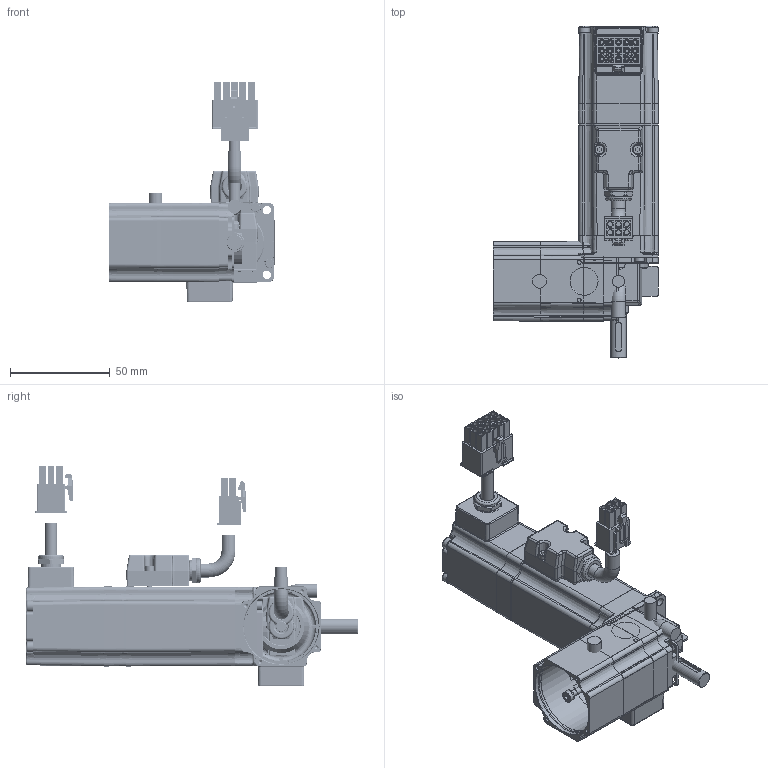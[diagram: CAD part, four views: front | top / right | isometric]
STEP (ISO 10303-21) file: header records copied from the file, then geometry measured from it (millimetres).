
FILE_DESCRIPTION( ( 'Unknown' ), '1' );
FILE_NAME( 'K:/121010-AL Files 3D Step con chiavetta/Q0A928_0,32.stp', 'Unknown', ( 'Unknown' ), ( 'Unknown' ), 'PSStep 14.0', 'Unknown', ' ' );
FILE_SCHEMA( ( 'AUTOMOTIVE_DESIGN { 1 0 10303 214 1 1 1 1 }' ) );
Length unit declared in the file: millimetre
Products named in the file (38): blocchetto potenza ORIZ TC40-(N13050); Assem1; Vite a brugola testa cil 8,8 -  M 2,5 x 4; N45901; N35907; Vite a brugola testa cil 8,8 -  M 2,5 x 12; 1; N15909_D6,5; N35218_H5; CAPICORDA 3_senza protezione; CAVO POT-N13050-curva; CUSC_10_26_8_6000_ZZ; N33908; n35905; N27912; N11920; N35209; CN amp 172171; CN amp 172168 6p MAS; Vite a brugola testa cil 8,8 -  M 2,5 x 16; Vite a brugola testa cil 8,8 -  M 2,5 x 16-oa1; Vite a brugola testa cil 8,8 -  M 2,5 x 16-oa2; Vite a brugola testa cil 8,8 -  M 2,5 x 16-oa3; Vite a brugola testa cil 8,8 -  M  3 x 50; Vite a brugola testa cil 8,8 -  M  3 x 50-oa4; Vite a brugola testa cil 8,8 -  M  3 x 50-oa5; Vite a brugola testa cil 8,8 -  M  3 x 50-oa6; LI-PIA   3x3 x 15; CAVO D6 L30-sgn; N09923; CUSC_8_19_6_698_ZZ; N01973
Bounding box: 82.85 x 166.64 x 110.7 mm (x, y, z)
Volume: 174652.1 mm3; surface area: 164141.3 mm2
Topology: 81 solids, 85 shells, 5148 faces, 13295 edges, 8562 vertices
Faces by surface type: plane 3180, cylinder 1001, bspline 369, cone 251, torus 229, extrusion 66, sphere 52
Full cylindrical faces by diameter (mm): 0.314 x2, 1.82 x30, 2.013 x23, 2.459 x8, 2.5 x17, 2.6 x42, 2.7 x6, 3 x24, 3.2 x3, 3.242 x4, 3.46 x8, 4.7 x17, 5.5 x10, 6 x2, 6.5 x5, 6.8 x3, 7 x8, 7.99 x2, 8 x9, 10 x4, 10.3 x10, 10.647 x5, 11 x4, 11.52 x8, 12 x7, 12.7 x5, 14.5 x2, 14.7 x8, 14.915 x6, 15 x2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
Entity records: 92840 total; most frequent: CARTESIAN_POINT 24260, ORIENTED_EDGE 11684, DIRECTION 11236, EDGE_CURVE 5842, VECTOR 4066, LINE 4033, VERTEX_POINT 3943, AXIS2_PLACEMENT_3D 3585
